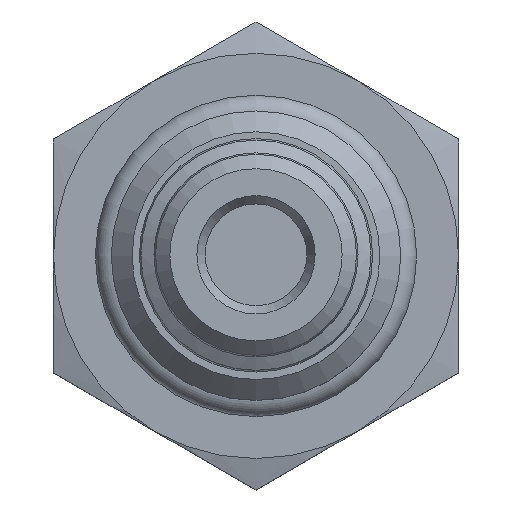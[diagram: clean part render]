
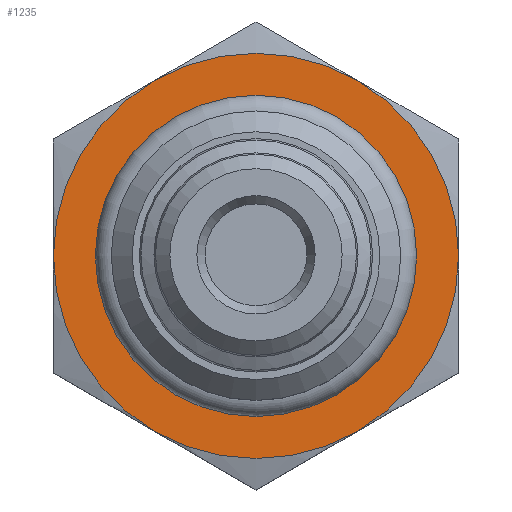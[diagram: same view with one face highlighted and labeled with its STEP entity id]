
A CAD part, top view. The second image highlights one B-rep face of the part: STEP entity #1235.
In plain terms, the highlighted planar face has unit normal (0, 0, 1).
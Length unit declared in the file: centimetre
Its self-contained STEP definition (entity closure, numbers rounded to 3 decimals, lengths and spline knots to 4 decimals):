
#271=FACE_BOUND('',#462,.T.);
#347=FACE_OUTER_BOUND('',#461,.T.);
#461=EDGE_LOOP('',(#1000,#1001,#1002,#1003,#1004,#1005));
#462=EDGE_LOOP('',(#1006));
#571=CIRCLE('',#1334,0.7772);
#577=CIRCLE('',#1351,1.1113);
#578=CIRCLE('',#1353,1.1113);
#579=CIRCLE('',#1355,1.1113);
#580=CIRCLE('',#1357,1.1113);
#581=CIRCLE('',#1359,1.1113);
#582=CIRCLE('',#1361,1.1113);
#636=VERTEX_POINT('',#1854);
#642=VERTEX_POINT('',#1875);
#646=VERTEX_POINT('',#1893);
#651=VERTEX_POINT('',#1912);
#656=VERTEX_POINT('',#1932);
#658=VERTEX_POINT('',#1947);
#669=VERTEX_POINT('',#1995);
#789=EDGE_CURVE('',#669,#669,#571,.T.);
#795=EDGE_CURVE('',#646,#656,#577,.T.);
#796=EDGE_CURVE('',#656,#651,#578,.T.);
#797=EDGE_CURVE('',#651,#658,#579,.T.);
#798=EDGE_CURVE('',#658,#636,#580,.T.);
#799=EDGE_CURVE('',#636,#642,#581,.T.);
#800=EDGE_CURVE('',#642,#646,#582,.T.);
#1000=ORIENTED_EDGE('',*,*,#798,.T.);
#1001=ORIENTED_EDGE('',*,*,#799,.T.);
#1002=ORIENTED_EDGE('',*,*,#800,.T.);
#1003=ORIENTED_EDGE('',*,*,#795,.T.);
#1004=ORIENTED_EDGE('',*,*,#796,.T.);
#1005=ORIENTED_EDGE('',*,*,#797,.T.);
#1006=ORIENTED_EDGE('',*,*,#789,.F.);
#1178=PLANE('',#1367);
#1235=ADVANCED_FACE('',(#347,#271),#1178,.F.);
#1334=AXIS2_PLACEMENT_3D('',#1996,#1557,#1558);
#1351=AXIS2_PLACEMENT_3D('',#2018,#1591,#1592);
#1353=AXIS2_PLACEMENT_3D('',#2020,#1595,#1596);
#1355=AXIS2_PLACEMENT_3D('',#2022,#1599,#1600);
#1357=AXIS2_PLACEMENT_3D('',#2024,#1603,#1604);
#1359=AXIS2_PLACEMENT_3D('',#2026,#1607,#1608);
#1361=AXIS2_PLACEMENT_3D('',#2028,#1611,#1612);
#1367=AXIS2_PLACEMENT_3D('',#2036,#1623,#1624);
#1557=DIRECTION('center_axis',(0.,0.,
1.));
#1558=DIRECTION('ref_axis',(-1.,0.,0.));
#1591=DIRECTION('center_axis',(0.,0.,1.));
#1592=DIRECTION('ref_axis',(1.,0.,0.));
#1595=DIRECTION('center_axis',(0.,0.,1.));
#1596=DIRECTION('ref_axis',(1.,0.,0.));
#1599=DIRECTION('center_axis',(0.,0.,1.));
#1600=DIRECTION('ref_axis',(1.,0.,0.));
#1603=DIRECTION('center_axis',(0.,0.,1.));
#1604=DIRECTION('ref_axis',(1.,0.,0.));
#1607=DIRECTION('center_axis',(0.,0.,1.));
#1608=DIRECTION('ref_axis',(1.,0.,0.));
#1611=DIRECTION('center_axis',(0.,0.,1.));
#1612=DIRECTION('ref_axis',(1.,0.,0.));
#1623=DIRECTION('center_axis',(0.,0.,-1.));
#1624=DIRECTION('ref_axis',(-1.,0.,0.));
#1854=CARTESIAN_POINT('',(-0.5556,0.9624,5.2095));
#1875=CARTESIAN_POINT('',(-1.1113,0.,5.2095));
#1893=CARTESIAN_POINT('',(-0.5556,-0.9624,5.2095));
#1912=CARTESIAN_POINT('',(1.1113,0.,5.2095));
#1932=CARTESIAN_POINT('',(0.5556,-0.9624,5.2095));
#1947=CARTESIAN_POINT('',(0.5556,0.9624,5.2095));
#1995=CARTESIAN_POINT('',(0.7772,0.,5.2095));
#1996=CARTESIAN_POINT('Origin',(0.,0.,
5.2095));
#2018=CARTESIAN_POINT('Origin',(0.,0.,5.2095));
#2020=CARTESIAN_POINT('Origin',(0.,0.,5.2095));
#2022=CARTESIAN_POINT('Origin',(0.,0.,5.2095));
#2024=CARTESIAN_POINT('Origin',(0.,0.,5.2095));
#2026=CARTESIAN_POINT('Origin',(0.,0.,5.2095));
#2028=CARTESIAN_POINT('Origin',(0.,0.,5.2095));
#2036=CARTESIAN_POINT('Origin',(0.,1.1113,5.2095));
